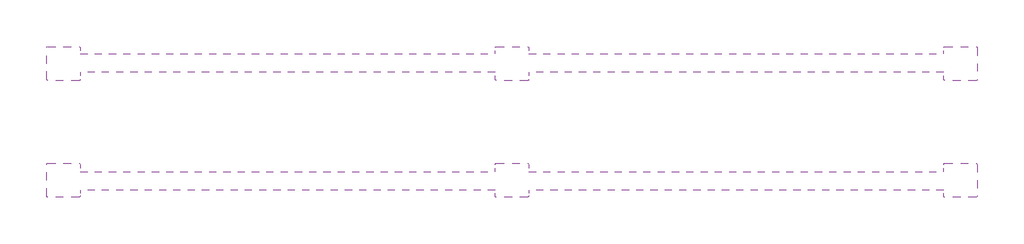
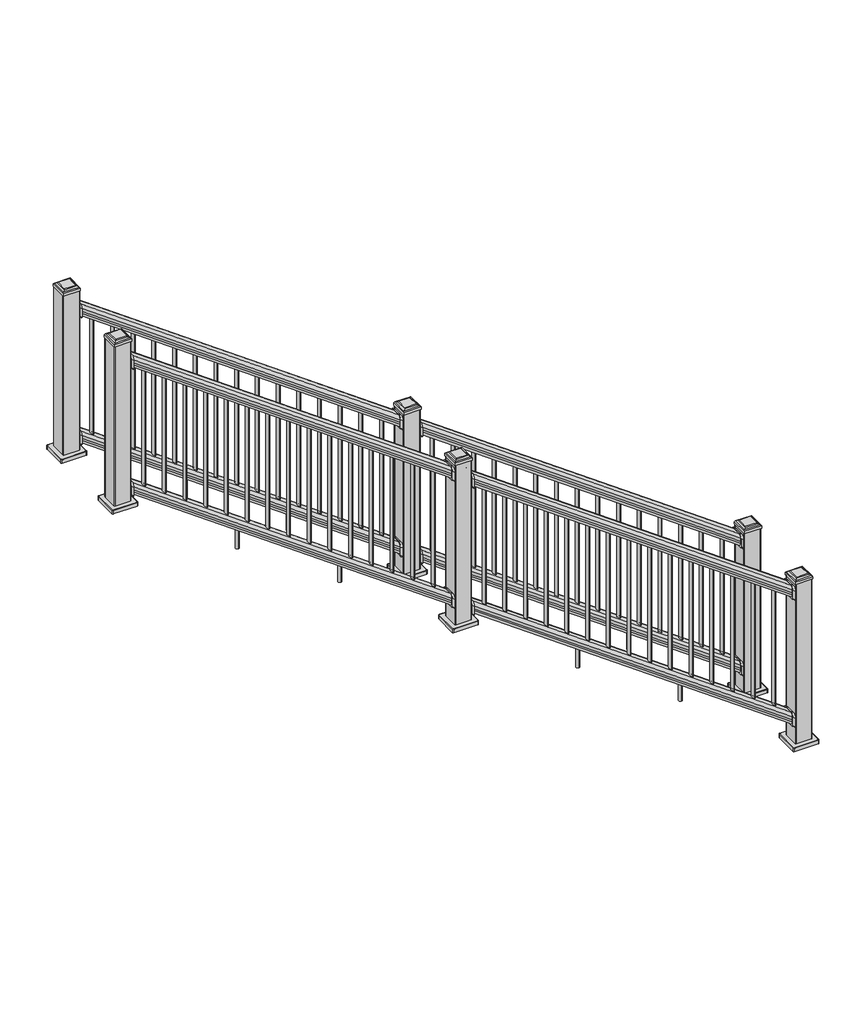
# One storey: 2 railings.
"""IFC4 building model written with IfcOpenShell, lengths in millimetres."""

from ifc_helpers import new_model, si_unit, origin, place, context, project, spatial, transform, mapped, element, save
from components import railing_2b7e7999, railing_33662ed4, railing_3b4f4b14, railing_236b51d1, railing_d5dcb71c, railing_da19b3df, railing_2653ac28, railing_139dafd8

model = new_model("IFC4")

# Units and contexts
model_context = context("Model", 3, world=origin())
ifc_project = project(units=[si_unit("LENGTHUNIT", "METRE", prefix="MILLI")], contexts=[model_context])

# Site, building, storey
site = spatial("IfcSite", under=ifc_project)
building = spatial("IfcBuilding", under=site)
storey = spatial("IfcBuildingStorey", under=building, Name="Level 03 - T.O. Basement Slab", Elevation=-2438.4)

# Railings
placement = place(None, origin())
railing_shape = railing_2b7e7999(model_context)
railing_2_shape = railing_33662ed4(model_context)
railing_3_shape = railing_3b4f4b14(model_context)
railing_4_shape = railing_236b51d1(model_context)
element("IfcRailing", 1, ObjectType="NewTechWood - Westminister Gray", at=placement, inside=storey, context=model_context, shape_type="MappedRepresentation", body=[
    mapped(railing_shape, transform((0.0, 0.0, 0.0), x_axis=(1.0, 0.0, 0.0), y_axis=(0.0, 1.0, 0.0), z_axis=(0.0, 0.0, 1.0))),
    mapped(railing_2_shape, transform((0.0, 0.0, 0.0), x_axis=(1.0, 0.0, 0.0), y_axis=(0.0, 1.0, 0.0), z_axis=(0.0, 0.0, 1.0))),
    mapped(railing_3_shape, transform((0.0, 0.0, 0.0), x_axis=(1.0, 0.0, 0.0), y_axis=(0.0, 1.0, 0.0), z_axis=(0.0, 0.0, 1.0))),
    mapped(railing_4_shape, transform((0.0, 0.0, 0.0), x_axis=(1.0, 0.0, 0.0), y_axis=(0.0, 1.0, 0.0), z_axis=(0.0, 0.0, 1.0))),
])
railing_5_shape = railing_d5dcb71c(model_context)
railing_6_shape = railing_da19b3df(model_context)
railing_7_shape = railing_2653ac28(model_context)
railing_8_shape = railing_139dafd8(model_context)
element("IfcRailing", 2, ObjectType="NewTechWood - Westminister Gray", at=placement, inside=storey, context=model_context, shape_type="MappedRepresentation", body=[
    mapped(railing_5_shape, transform((0.0, 0.0, 0.0), x_axis=(1.0, 0.0, 0.0), y_axis=(0.0, 1.0, 0.0), z_axis=(0.0, 0.0, 1.0))),
    mapped(railing_6_shape, transform((0.0, 0.0, 0.0), x_axis=(1.0, 0.0, 0.0), y_axis=(0.0, 1.0, 0.0), z_axis=(0.0, 0.0, 1.0))),
    mapped(railing_7_shape, transform((0.0, 0.0, 0.0), x_axis=(1.0, 0.0, 0.0), y_axis=(0.0, 1.0, 0.0), z_axis=(0.0, 0.0, 1.0))),
    mapped(railing_8_shape, transform((0.0, 0.0, 0.0), x_axis=(1.0, 0.0, 0.0), y_axis=(0.0, 1.0, 0.0), z_axis=(0.0, 0.0, 1.0))),
])

save(model, "model.ifc")
